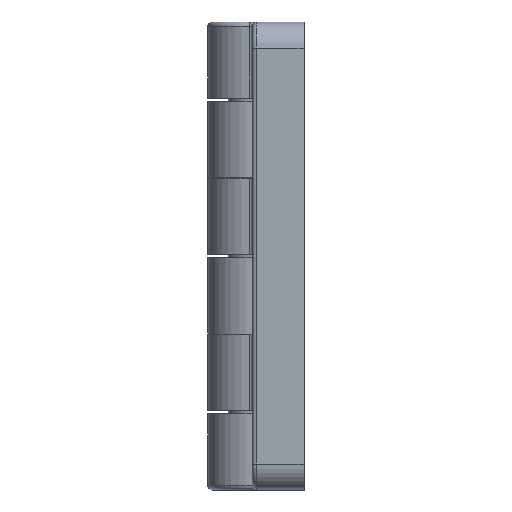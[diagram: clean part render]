
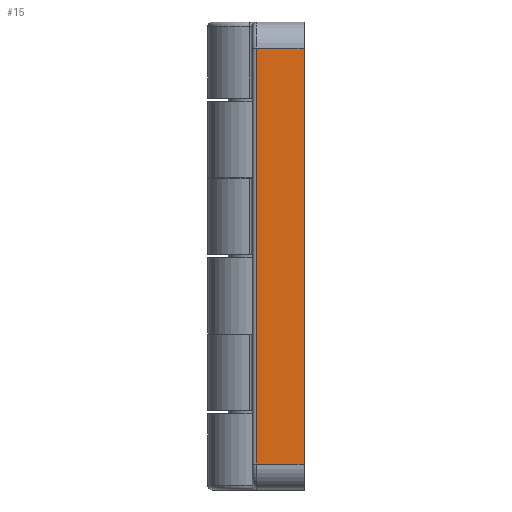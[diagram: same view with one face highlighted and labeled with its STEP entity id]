
A CAD part, left-side view. The second image highlights one B-rep face of the part: STEP entity #15.
In plain terms, the highlighted planar face has unit normal (-1, 0, 0) as drawn and (1, 0, 0) by its records, which use the part's own axes.
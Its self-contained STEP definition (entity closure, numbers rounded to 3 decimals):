
#15 = ADVANCED_FACE ( 'NONE', ( #1543 ), #2089, .F. ) ;
#53 = ORIENTED_EDGE ( 'NONE', *, *, #1477, .T. ) ;
#86 = CARTESIAN_POINT ( 'NONE',  ( 19.7, -0.3, 51. ) ) ;
#92 = CARTESIAN_POINT ( 'NONE',  ( 19.7, 0.2, 3. ) ) ;
#158 = VERTEX_POINT ( 'NONE', #399 ) ;
#274 = VECTOR ( 'NONE', #596, 1000. ) ;
#319 = VERTEX_POINT ( 'NONE', #86 ) ;
#330 = DIRECTION ( 'NONE',  ( -1., 0., 0. ) ) ;
#336 = CARTESIAN_POINT ( 'NONE',  ( 19.7, 0.2, 51. ) ) ;
#342 = DIRECTION ( 'NONE',  ( 0., 0., 1. ) ) ;
#384 = VECTOR ( 'NONE', #1735, 1000. ) ;
#399 = CARTESIAN_POINT ( 'NONE',  ( 19.7, -5.8, 3. ) ) ;
#402 = VERTEX_POINT ( 'NONE', #1745 ) ;
#406 = CARTESIAN_POINT ( 'NONE',  ( 19.7, -5.8, 54. ) ) ;
#419 = EDGE_CURVE ( 'NONE', #319, #481, #834, .T. ) ;
#426 = ORIENTED_EDGE ( 'NONE', *, *, #1403, .T. ) ;
#481 = VERTEX_POINT ( 'NONE', #1224 ) ;
#505 = DIRECTION ( 'NONE',  ( 0., 0., 1. ) ) ;
#514 = EDGE_LOOP ( 'NONE', ( #53, #426, #981, #1978 ) ) ;
#596 = DIRECTION ( 'NONE',  ( 0., 1., 0. ) ) ;
#834 = LINE ( 'NONE', #336, #384 ) ;
#981 = ORIENTED_EDGE ( 'NONE', *, *, #419, .T. ) ;
#1040 = AXIS2_PLACEMENT_3D ( 'NONE', #1900, #330, #342 ) ;
#1076 = LINE ( 'NONE', #92, #274 ) ;
#1193 = CARTESIAN_POINT ( 'NONE',  ( 19.7, -0.3, 54. ) ) ;
#1224 = CARTESIAN_POINT ( 'NONE',  ( 19.7, -5.8, 51. ) ) ;
#1357 = VECTOR ( 'NONE', #1796, 1000. ) ;
#1403 = EDGE_CURVE ( 'NONE', #402, #319, #2107, .T. ) ;
#1477 = EDGE_CURVE ( 'NONE', #158, #402, #1076, .T. ) ;
#1543 = FACE_OUTER_BOUND ( 'NONE', #514, .T. ) ;
#1735 = DIRECTION ( 'NONE',  ( 0., -1., 0. ) ) ;
#1745 = CARTESIAN_POINT ( 'NONE',  ( 19.7, -0.3, 3. ) ) ;
#1796 = DIRECTION ( 'NONE',  ( 0., 0., -1. ) ) ;
#1900 = CARTESIAN_POINT ( 'NONE',  ( 19.7, 0.2, 54. ) ) ;
#1905 = EDGE_CURVE ( 'NONE', #481, #158, #1959, .T. ) ;
#1959 = LINE ( 'NONE', #406, #1357 ) ;
#1973 = VECTOR ( 'NONE', #505, 1000. ) ;
#1978 = ORIENTED_EDGE ( 'NONE', *, *, #1905, .T. ) ;
#2089 = PLANE ( 'NONE',  #1040 ) ;
#2107 = LINE ( 'NONE', #1193, #1973 ) ;
